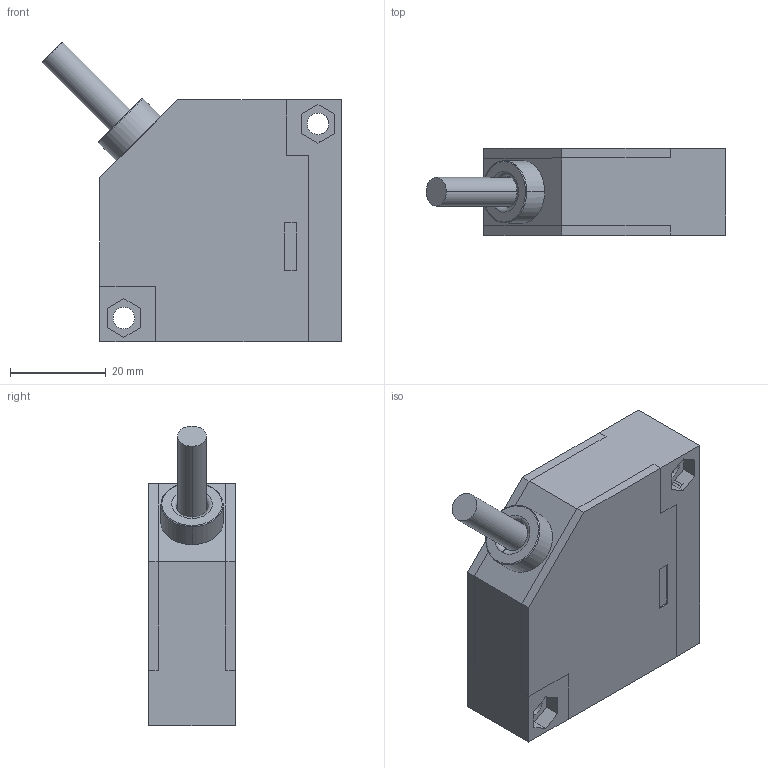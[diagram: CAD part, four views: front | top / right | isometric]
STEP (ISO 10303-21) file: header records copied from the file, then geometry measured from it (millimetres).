
FILE_DESCRIPTION((''),'2;1');
FILE_NAME('EJ-T50N1_EJ-T5N1_EJ-T50N2_EJ-T5_ASM','2018-08-13T09:20:10',('Administrator'),(''),'CREO PARAMETRIC BY PTC INC, 2016390','CREO PARAMETRIC BY PTC INC, 2016390','');
FILE_SCHEMA(('CONFIG_CONTROL_DESIGN'));
Length unit declared in the file: millimetre
Products named in the file (8): EJ-30N1-MAINBODY_141_1; EJ-30N1-MAINBODY_141_2; EJ-30N1-MAINBODY_141_ASM; EJ_COVER_2; PRT0001_2; ASMEJ-30N1_ASM_111_ASM; EJ-R4N1-GLASS; EJ-T50N1_EJ-T5N1_EJ-T50N2_EJ-T5_ASM
Assembly tree (7 placements, depth 4):
  EJ-T50N1_EJ-T5N1_EJ-T50N2_EJ-T5_ASM
    ASMEJ-30N1_ASM_111_ASM
      EJ-30N1-MAINBODY_141_ASM
        EJ-30N1-MAINBODY_141_1
        EJ-30N1-MAINBODY_141_2
      EJ_COVER_2
      PRT0001_2
    EJ-R4N1-GLASS
Bounding box: 62.55 x 18.1 x 62.55 mm (x, y, z)
Volume: 18448.5 mm3; surface area: 21114.7 mm2
Topology: 5 solids, 5 shells, 199 faces, 541 edges, 357 vertices
Faces by surface type: plane 166, cylinder 20, cone 9, torus 4
Entity records: 6674 total; most frequent: CARTESIAN_POINT 1379, ORIENTED_EDGE 1082, DIRECTION 1032, EDGE_CURVE 541, VECTOR 444, LINE 444, VERTEX_POINT 357, AXIS2_PLACEMENT_3D 294
